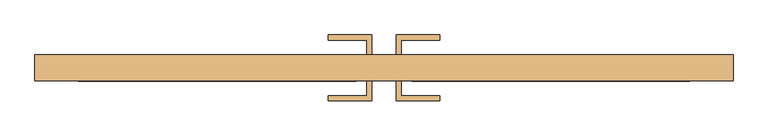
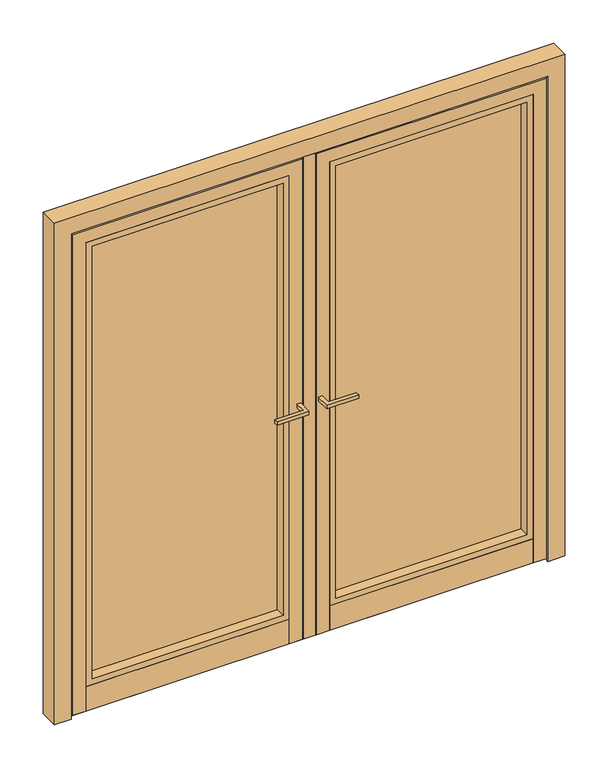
"""IFC4 building model written with IfcOpenShell, lengths in millimetres: door geometry, Reynaers_MasterLine 8_Door_Plinth_Outward Opening_Double Vent : Reynaers_MasterLine 8_Door_Plinth_Outward Opening_Double Vent."""

from ifc_helpers import new_model, si_unit, frame, origin, place, context, project, spatial, polyline, outline, extrude, faceted_brep, source, transform, mapped, element, save


def door_5e71b6ac(model_context):
    return source(origin(), model_context, "Body", "SolidModel", [
        extrude(outline(polyline([(35.3, 80.0), (35.3, 137.5), (162.8, 137.5), (162.8, 122.5), (50.3, 122.5), (50.3, 80.0), (35.3, 80.0)])), frame((0.0, 0.0, 1001.0), z_axis=(0.0, 0.0, 1.0), x_axis=(1.0, 0.0, 0.0)), (0.0, 0.0, 1.0), 15.0),
        extrude(outline(polyline([(-35.3, 80.0), (-50.3, 80.0), (-50.3, 122.5), (-162.8, 122.5), (-162.8, 137.5), (-35.3, 137.5), (-35.3, 80.0)])), frame((0.0, 0.0, 1001.0), z_axis=(0.0, 0.0, 1.0), x_axis=(1.0, 0.0, 0.0)), (0.0, 0.0, 1.0), 15.0),
        extrude(outline(polyline([(-35.3, 3.0), (-35.3, -54.5), (-162.8, -54.5), (-162.8, -39.5), (-50.3, -39.5), (-50.3, 3.0), (-35.3, 3.0)])), frame((0.0, 0.0, 1001.0), z_axis=(0.0, 0.0, 1.0), x_axis=(1.0, 0.0, 0.0)), (0.0, 0.0, 1.0), 15.0),
        extrude(outline(polyline([(35.3, 3.0), (50.3, 3.0), (50.3, -39.5), (162.8, -39.5), (162.8, -54.5), (35.3, -54.5), (35.3, 3.0)])), frame((0.0, 0.0, 1001.0), z_axis=(0.0, 0.0, 1.0), x_axis=(1.0, 0.0, 0.0)), (0.0, 0.0, 1.0), 15.0),
        extrude(outline(polyline([(886.0, 72.0), (886.0, 48.0), (88.5, 48.0), (88.5, 72.0), (886.0, 72.0)])), frame((0.0, 0.0, 125.0), z_axis=(0.0, 0.0, 1.0), x_axis=(1.0, 0.0, 0.0)), (0.0, 0.0, 1.0), 1861.0),
        extrude(outline(polyline([(-88.5, 48.0), (-886.0, 48.0), (-886.0, 72.0), (-88.5, 72.0), (-88.5, 48.0)])), frame((0.0, 0.0, 125.0), z_axis=(0.0, 0.0, 1.0), x_axis=(1.0, 0.0, 0.0)), (0.0, 0.0, 1.0), 1861.0),
        faceted_brep([(-956.5, 76.2, 14.0), (-971.5, 76.2, 14.0), (-971.5, 80.0, 14.0), (-867.0, 80.0, 14.0), (-867.0, 76.0000025, 14.0), (-956.5, 76.0000025, 14.0), (-894.0, 3.0, 14.0), (-945.5, 3.0, 14.0), (-945.5, 7.0, 14.0), (-894.0, 7.0, 14.0), (-29.0, 3.0, 14.0), (-80.5, 3.0, 14.0), (-80.5, 7.0, 14.0), (-29.0, 7.0, 14.0), (-107.5, 80.0, 14.0), (-3.0, 80.0, 14.0), (-3.0, 76.2, 14.0), (-18.0, 76.2, 14.0), (-18.0, 76.0000025, 14.0), (-107.5, 76.0000025, 14.0), (-956.5, 76.2, 2056.5), (-956.5, 11.8, 2056.5), (-18.0, 11.8, 2056.5), (-18.0, 76.2, 2056.5), (-971.5, 80.0, 2071.5), (-971.5, 76.2, 2071.5), (-3.0, 76.2, 2071.5), (-3.0, 80.0, 2071.5), (-867.0, 72.0, 1967.0), (-867.0, 80.0, 1967.0), (-107.5, 80.0, 1967.0), (-107.5, 72.0, 1967.0), (-894.0, 3.0, 1994.0), (-894.0, 72.0, 1994.0), (-80.5, 72.0, 1994.0), (-80.5, 3.0, 1994.0), (-945.5, 11.8, 2045.5), (-945.5, 3.0, 2045.5), (-29.0, 3.0, 2045.5), (-29.0, 11.8, 2045.5), (-18.0, 76.2, 15.5), (-18.0, 76.0000025, 15.5), (-18.0, 11.8, 44.0), (-18.0, 76.2, 44.0), (-3.0, 76.2, 44.0), (-3.0, 78.0000025, 44.0), (-3.0, 78.0000025, 15.5), (-3.0, 76.2, 15.5), (-107.5, 76.0000025, 15.5), (-107.5, 78.0000025, 15.5), (-107.5, 78.0000025, 44.0), (-107.5, 72.0, 44.0), (-80.5, 72.0, 44.0), (-80.5, 5.0, 44.0), (-80.5, 5.0, 15.5), (-80.5, 7.0, 15.5), (-29.0, 7.0, 15.5), (-29.0, 5.0, 15.5), (-29.0, 5.0, 44.0), (-29.0, 11.8, 44.0), (-956.5, 76.0000025, 15.5), (-956.5, 76.2, 15.5), (-956.5, 76.2, 44.0), (-956.5, 11.8, 44.0), (-971.5, 76.2, 15.5), (-971.5, 76.2, 44.0), (-971.5, 78.0000025, 15.5), (-971.5, 78.0000025, 44.0), (-867.0, 72.0, 44.0), (-867.0, 78.0000025, 44.0), (-867.0, 78.0000025, 15.5), (-867.0, 76.0000025, 15.5), (-894.0, 72.0, 44.0), (-894.0, 7.0, 15.5), (-894.0, 5.0, 15.5), (-894.0, 5.0, 44.0), (-945.5, 11.8, 44.0), (-945.5, 5.0, 44.0), (-945.5, 5.0, 15.5), (-945.5, 7.0, 15.5)], [[[0, 1, 2, 3, 4, 5]], [[6, 7, 8, 9]], [[10, 11, 12, 13]], [[14, 15, 16, 17, 18, 19]], [[20, 21, 22, 23]], [[24, 25, 26, 27]], [[28, 29, 30, 31]], [[32, 33, 34, 35]], [[36, 37, 38, 39]], [[18, 17, 40, 41]], [[23, 22, 42, 43]], [[16, 15, 27, 26, 44, 45, 46, 47]], [[31, 30, 14, 19, 48, 49, 50, 51]], [[35, 34, 52, 53, 54, 55, 12, 11]], [[39, 38, 10, 13, 56, 57, 58, 59]], [[0, 5, 60, 61]], [[21, 20, 62, 63]], [[1, 0, 61, 64]], [[17, 16, 47, 40]], [[20, 23, 43, 44, 26, 25, 65, 62]], [[2, 1, 64, 66, 67, 65, 25, 24]], [[3, 2, 24, 27, 15, 14, 30, 29]], [[29, 28, 68, 69, 70, 71, 4, 3]], [[28, 31, 51, 52, 34, 33, 72, 68]], [[33, 32, 6, 9, 73, 74, 75, 72]], [[7, 6, 32, 35, 11, 10, 38, 37]], [[37, 36, 76, 77, 78, 79, 8, 7]], [[22, 21, 63, 76, 36, 39, 59, 42]], [[50, 45, 44, 43, 42, 59, 58, 53, 52, 51]], [[67, 69, 68, 72, 75, 77, 76, 63, 62, 65]], [[53, 58, 57, 54]], [[77, 75, 74, 78]], [[54, 57, 56, 55]], [[78, 74, 73, 79]], [[55, 56, 13, 12]], [[79, 73, 9, 8]], [[41, 48, 19, 18]], [[71, 60, 5, 4]], [[48, 41, 40, 47, 46, 49]], [[60, 71, 70, 66, 64, 61]], [[45, 50, 49, 46]], [[69, 67, 66, 70]]]),
        faceted_brep([(80.5, 3.0, 14.0), (29.0, 3.0, 14.0), (29.0, 7.0, 14.0), (80.5, 7.0, 14.0), (18.0, 76.2, 14.0), (3.0, 76.2, 14.0), (3.0, 80.0, 14.0), (107.5, 80.0, 14.0), (107.5, 76.0000025, 14.0), (18.0, 76.0000025, 14.0), (867.0, 80.0, 14.0), (971.5, 80.0, 14.0), (971.5, 76.2, 14.0), (956.5, 76.2, 14.0), (956.5, 76.0000025, 14.0), (867.0, 76.0000025, 14.0), (945.5, 3.0, 14.0), (894.0, 3.0, 14.0), (894.0, 7.0, 14.0), (945.5, 7.0, 14.0), (80.5, 3.0, 1994.0), (894.0, 3.0, 1994.0), (945.5, 3.0, 2045.5), (29.0, 3.0, 2045.5), (29.0, 11.8, 2045.5), (29.0, 11.8, 44.0), (29.0, 5.0, 44.0), (29.0, 5.0, 15.5), (29.0, 7.0, 15.5), (945.5, 11.8, 2045.5), (945.5, 11.8, 44.0), (956.5, 11.8, 44.0), (956.5, 11.8, 2056.5), (18.0, 11.8, 2056.5), (18.0, 11.8, 44.0), (18.0, 76.0000025, 15.5), (18.0, 76.2, 15.5), (18.0, 76.2, 2056.5), (18.0, 76.2, 44.0), (3.0, 76.2, 15.5), (971.5, 76.2, 15.5), (956.5, 76.2, 15.5), (956.5, 76.2, 2056.5), (956.5, 76.2, 44.0), (971.5, 76.2, 44.0), (971.5, 76.2, 2071.5), (3.0, 76.2, 2071.5), (3.0, 76.2, 44.0), (3.0, 78.0000025, 15.5), (3.0, 78.0000025, 44.0), (3.0, 80.0, 2071.5), (971.5, 80.0, 2071.5), (867.0, 80.0, 1967.0), (107.5, 80.0, 1967.0), (107.5, 72.0, 1967.0), (107.5, 72.0, 44.0), (107.5, 78.0000025, 44.0), (107.5, 78.0000025, 15.5), (107.5, 76.0000025, 15.5), (867.0, 72.0, 1967.0), (867.0, 72.0, 44.0), (894.0, 72.0, 44.0), (894.0, 72.0, 1994.0), (80.5, 72.0, 1994.0), (80.5, 72.0, 44.0), (80.5, 7.0, 15.5), (80.5, 5.0, 15.5), (80.5, 5.0, 44.0), (945.5, 7.0, 15.5), (945.5, 5.0, 15.5), (945.5, 5.0, 44.0), (956.5, 76.0000025, 15.5), (971.5, 78.0000025, 44.0), (971.5, 78.0000025, 15.5), (867.0, 76.0000025, 15.5), (867.0, 78.0000025, 15.5), (867.0, 78.0000025, 44.0), (894.0, 5.0, 44.0), (894.0, 5.0, 15.5), (894.0, 7.0, 15.5)], [[[0, 1, 2, 3]], [[4, 5, 6, 7, 8, 9]], [[10, 11, 12, 13, 14, 15]], [[16, 17, 18, 19]], [[1, 0, 20, 21, 17, 16, 22, 23]], [[1, 23, 24, 25, 26, 27, 28, 2]], [[24, 29, 30, 31, 32, 33, 34, 25]], [[4, 9, 35, 36]], [[33, 37, 38, 34]], [[5, 4, 36, 39]], [[13, 12, 40, 41]], [[37, 42, 43, 44, 45, 46, 47, 38]], [[6, 5, 39, 48, 49, 47, 46, 50]], [[7, 6, 50, 51, 11, 10, 52, 53]], [[7, 53, 54, 55, 56, 57, 58, 8]], [[54, 59, 60, 61, 62, 63, 64, 55]], [[20, 0, 3, 65, 66, 67, 64, 63]], [[23, 22, 29, 24]], [[33, 32, 42, 37]], [[46, 45, 51, 50]], [[53, 52, 59, 54]], [[21, 20, 63, 62]], [[22, 16, 19, 68, 69, 70, 30, 29]], [[14, 13, 41, 71]], [[42, 32, 31, 43]], [[12, 11, 51, 45, 44, 72, 73, 40]], [[52, 10, 15, 74, 75, 76, 60, 59]], [[17, 21, 62, 61, 77, 78, 79, 18]], [[49, 56, 55, 64, 67, 26, 25, 34, 38, 47]], [[76, 72, 44, 43, 31, 30, 70, 77, 61, 60]], [[26, 67, 66, 27]], [[77, 70, 69, 78]], [[27, 66, 65, 28]], [[78, 69, 68, 79]], [[28, 65, 3, 2]], [[79, 68, 19, 18]], [[58, 35, 9, 8]], [[71, 74, 15, 14]], [[35, 58, 57, 48, 39, 36]], [[74, 71, 41, 40, 73, 75]], [[56, 49, 48, 57]], [[72, 76, 75, 73]]]),
        faceted_brep([(-894.0, 3.0, 14.0), (-894.0, 3.0, 117.0), (-894.0, 76.0000025, 117.0), (-894.0, 76.0000025, 44.0), (-894.0, 5.0, 44.0), (-894.0, 5.0, 15.5), (-894.0, 7.0, 15.5), (-894.0, 7.0, 14.0), (-80.5, 3.0, 14.0), (-80.5, 7.0, 14.0), (-80.5, 7.0, 15.5), (-80.5, 5.0, 15.5), (-80.5, 5.0, 44.0), (-80.5, 76.0000025, 44.0), (-80.5, 76.0000025, 117.0), (-80.5, 3.0, 117.0), (-867.0000004, 76.0000025, 44.0), (-867.0000004, 78.0000025, 44.0), (-107.5, 78.0000025, 44.0), (-107.5, 76.0000025, 44.0), (-867.0000004, 78.0000025, 15.5), (-107.5, 78.0000025, 15.5), (-867.0000004, 76.0000025, 15.5), (-107.5, 76.0000025, 15.5), (-867.0000004, 76.0000025, 14.0), (-107.5, 76.0000025, 14.0), (-867.0000004, 80.0000025, 14.0), (-107.5, 80.0000025, 14.0), (-867.0000004, 80.0000025, 144.0), (-107.5, 80.0000025, 144.0), (-867.0000004, 76.0000025, 144.0), (-107.5, 76.0000025, 144.0), (-867.0000004, 76.0000025, 117.0), (-107.5, 76.0000025, 117.0)], [[[0, 1, 2, 3, 4, 5, 6, 7]], [[8, 9, 10, 11, 12, 13, 14, 15]], [[0, 7, 9, 8]], [[7, 6, 10, 9]], [[6, 5, 11, 10]], [[5, 4, 12, 11]], [[12, 4, 3, 16, 17, 18, 19, 13]], [[18, 17, 20, 21]], [[21, 20, 22, 23]], [[23, 22, 24, 25]], [[25, 24, 26, 27]], [[27, 26, 28, 29]], [[29, 28, 30, 31]], [[31, 30, 32, 33]], [[2, 1, 15, 14, 33, 32]], [[1, 0, 8, 15]], [[19, 33, 14, 13]], [[32, 16, 3, 2]], [[33, 19, 18, 21, 23, 25, 27, 29, 31]], [[16, 32, 30, 28, 26, 24, 22, 20, 17]]]),
        faceted_brep([(894.0, 3.0, 14.0), (894.0, 7.0, 14.0), (894.0, 7.0, 15.5), (894.0, 5.0, 15.5), (894.0, 5.0, 44.0), (894.0, 76.0000025, 44.0), (894.0, 76.0000025, 117.0), (894.0, 3.0, 117.0), (80.5, 3.0, 14.0), (80.5, 3.0, 117.0), (80.5, 76.0000025, 117.0), (80.5, 76.0000025, 44.0), (80.5, 5.0, 44.0), (80.5, 5.0, 15.5), (80.5, 7.0, 15.5), (80.5, 7.0, 14.0), (107.5, 76.0000025, 44.0), (107.5, 78.0000025, 44.0), (866.9999989, 78.0000025, 44.0), (866.9999989, 76.0000025, 44.0), (107.5, 78.0000025, 15.5), (866.9999989, 78.0000025, 15.5), (107.5, 76.0000025, 15.5), (866.9999989, 76.0000025, 15.5), (107.5, 76.0000025, 14.0), (866.9999989, 76.0000025, 14.0), (107.5, 80.0000025, 14.0), (866.9999989, 80.0000025, 14.0), (107.5, 80.0000025, 144.0), (866.9999989, 80.0000025, 144.0), (107.5, 76.0000025, 144.0), (866.9999989, 76.0000025, 144.0), (107.5, 76.0000025, 117.0), (866.9999989, 76.0000025, 117.0)], [[[0, 1, 2, 3, 4, 5, 6, 7]], [[8, 9, 10, 11, 12, 13, 14, 15]], [[1, 0, 8, 15]], [[2, 1, 15, 14]], [[3, 2, 14, 13]], [[4, 3, 13, 12]], [[4, 12, 11, 16, 17, 18, 19, 5]], [[18, 17, 20, 21]], [[21, 20, 22, 23]], [[23, 22, 24, 25]], [[25, 24, 26, 27]], [[27, 26, 28, 29]], [[29, 28, 30, 31]], [[31, 30, 32, 33]], [[7, 6, 33, 32, 10, 9]], [[0, 7, 9, 8]], [[32, 16, 11, 10]], [[19, 33, 6, 5]], [[16, 32, 30, 28, 26, 24, 22, 20, 17]], [[33, 19, 18, 21, 23, 25, 27, 29, 31]]]),
        faceted_brep([(8.0, 76.2, 2071.5), (-18.0, 76.2, 2071.5), (-18.0, 11.8, 2071.5), (8.0, 11.8, 2071.5), (8.0, 6.8, 14.0), (23.0, 6.8, 14.0), (23.0, 3.0, 14.0), (-23.0, 3.0, 14.0), (-23.0, 7.0, 14.0), (8.0, 7.0, 14.0), (23.0, 3.0, 2051.5), (-23.0, 3.0, 2051.5), (23.0, 6.8, 15.5), (23.0, 5.0, 15.5), (23.0, 5.0, 44.0), (23.0, 6.8, 44.0), (23.0, 6.8, 2051.5), (8.0, 6.8, 15.5), (8.0, 6.8, 2051.5), (8.0, 6.8, 44.0), (8.0, 11.8, 2051.5), (8.0, 76.2, 44.0), (8.0, 7.0, 15.5), (-18.0, 76.2, 44.0), (-18.0, 11.8, 44.0), (-18.0, 11.8, 2051.5), (-23.0, 11.8, 2051.5), (-23.0, 11.8, 44.0), (-23.0, 5.0, 44.0), (-23.0, 5.0, 15.5), (-23.0, 7.0, 15.5)], [[[0, 1, 2, 3]], [[4, 5, 6, 7, 8, 9]], [[7, 6, 10, 11]], [[6, 5, 12, 13, 14, 15, 16, 10]], [[5, 4, 17, 12]], [[18, 16, 15, 19]], [[0, 3, 20, 18, 19, 21]], [[4, 9, 22, 17]], [[1, 0, 21, 23]], [[2, 1, 23, 24, 25]], [[26, 25, 24, 27]], [[7, 11, 26, 27, 28, 29, 30, 8]], [[25, 20, 3, 2]], [[20, 25, 26, 11, 10, 16, 18]], [[14, 28, 27, 24, 23, 21, 19, 15]], [[28, 14, 13, 29]], [[29, 13, 12, 17, 22, 30]], [[30, 22, 9, 8]]]),
        faceted_brep([(-18.0, 76.2, 14.0), (8.0, 76.2, 14.0), (8.0, 76.0000025, 14.0), (-18.0, 76.0000025, 14.0), (8.0, 76.2, 15.5), (8.0, 76.0000025, 15.5), (-18.0, 76.2, 15.5), (-18.0, 76.0000025, 15.5)], [[[0, 1, 2, 3]], [[2, 1, 4, 5]], [[1, 0, 6, 4]], [[0, 3, 7, 6]], [[5, 7, 3, 2]], [[7, 5, 4, 6]]]),
        extrude(outline(polyline([(951.5, 39.6), (951.5, 19.8), (-951.5, 19.8), (-951.5, 39.6), (951.5, 39.6)])), frame((0.0, 0.0, 1.0), z_axis=(0.0, 0.0, 1.0), x_axis=(1.0, 0.0, 0.0)), (0.0, 0.0, 1.0), 43.0),
        extrude(outline(polyline([(117.0, 80.5), (117.0, 894.0), (1994.0, 894.0), (1994.0, 80.5), (117.0, 80.5)]), holes=[polyline([(1969.0, 105.5), (1969.0, 869.0), (142.0, 869.0), (142.0, 105.5), (1969.0, 105.5)])]), frame((0.0, 3.0, 0.0), z_axis=(0.0, 1.0, 0.0), x_axis=(0.0, 0.0, 1.0)), (0.0, 0.0, 1.0), 40.2),
        extrude(outline(polyline([(1994.0, -894.0), (117.0, -894.0), (117.0, -80.5), (1994.0, -80.5), (1994.0, -894.0)]), holes=[polyline([(1969.0, -105.5), (142.0, -105.5), (142.0, -869.0), (1969.0, -869.0), (1969.0, -105.5)])]), frame((0.0, 3.0, 0.0), z_axis=(0.0, 1.0, 0.0), x_axis=(0.0, 0.0, 1.0)), (0.0, 0.0, 1.0), 40.2),
        faceted_brep([(-977.5, 71.2, 0.0), (-966.5, 71.2, 0.0), (-966.5, 6.8, 0.0), (-951.5, 6.8, 0.0), (-951.5, 3.0, 0.0), (-1020.0, 3.0, 0.0), (-1020.0, 80.0, 0.0), (-977.5, 80.0, 0.0), (977.5, 71.2, 0.0), (977.5, 80.0, 0.0), (1020.0, 80.0, 0.0), (1020.0, 3.0, 0.0), (951.5, 3.0, 0.0), (951.5, 6.8, 0.0), (966.5, 6.8, 0.0), (966.5, 71.2, 0.0), (-977.5, 71.2, 2077.5), (977.5, 71.2, 2077.5), (966.5, 71.2, 2066.5), (-966.5, 71.2, 2066.5), (-966.5, 6.8, 2066.5), (966.5, 6.8, 2066.5), (951.5, 6.8, 2051.5), (-951.5, 6.8, 2051.5), (-951.5, 3.0, 2051.5), (951.5, 3.0, 2051.5), (1020.0, 3.0, 2120.0), (-1020.0, 3.0, 2120.0), (-1020.0, 80.0, 2120.0), (1020.0, 80.0, 2120.0), (977.5, 80.0, 2077.5), (-977.5, 80.0, 2077.5)], [[[0, 1, 2, 3, 4, 5, 6, 7]], [[8, 9, 10, 11, 12, 13, 14, 15]], [[1, 0, 16, 17, 8, 15, 18, 19]], [[2, 1, 19, 20]], [[3, 2, 20, 21, 14, 13, 22, 23]], [[4, 3, 23, 24]], [[5, 4, 24, 25, 12, 11, 26, 27]], [[6, 5, 27, 28]], [[7, 6, 28, 29, 10, 9, 30, 31]], [[0, 7, 31, 16]], [[20, 19, 18, 21]], [[24, 23, 22, 25]], [[28, 27, 26, 29]], [[16, 31, 30, 17]], [[21, 18, 15, 14]], [[25, 22, 13, 12]], [[29, 26, 11, 10]], [[17, 30, 9, 8]]]),
    ])


if __name__ == "__main__":
    model = new_model("IFC4")
    model_context = context("Model", 3, world=origin())
    ifc_project = project(units=[si_unit("LENGTHUNIT", "METRE", prefix="MILLI")], contexts=[model_context])
    site = spatial("IfcSite", under=ifc_project)
    building = spatial("IfcBuilding", under=site)
    placement = place(None, origin())
    door_shape = door_5e71b6ac(model_context)
    element("IfcDoor", 1, ObjectType="Reynaers_MasterLine 8_Door_Plinth_Outward Opening_Double Vent : Reynaers_MasterLine 8_Door_Plinth_Outward Opening_Double Vent", at=placement, inside=building, context=model_context, shape_type="MappedRepresentation", body=[
        mapped(door_shape, transform((0.0, 0.0, 0.0), x_axis=(1.0, 0.0, 0.0), y_axis=(0.0, 1.0, 0.0), z_axis=(0.0, 0.0, 1.0))),
    ])
    save(model, "model.ifc")
